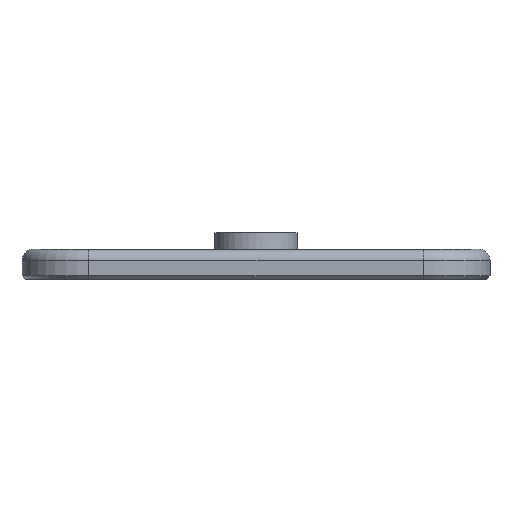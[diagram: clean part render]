
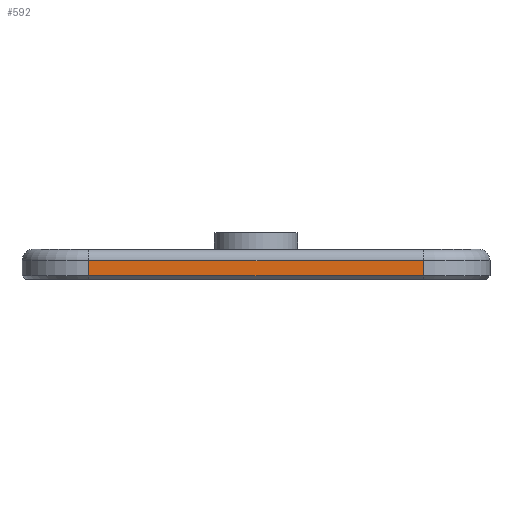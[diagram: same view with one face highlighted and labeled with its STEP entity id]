
A CAD part, front view. The second image highlights one B-rep face of the part: STEP entity #592.
In plain terms, the highlighted planar face has unit normal (0, -1, 0).
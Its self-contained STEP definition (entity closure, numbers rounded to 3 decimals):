
#62 = CYLINDRICAL_SURFACE('',#63,4.);
#63 = AXIS2_PLACEMENT_3D('',#64,#65,#66);
#64 = CARTESIAN_POINT('',(-10.,-32.,0.));
#65 = DIRECTION('',(-0.,-0.,-1.));
#66 = DIRECTION('',(1.,0.,0.));
#161 = VERTEX_POINT('',#162);
#162 = CARTESIAN_POINT('',(-10.,-36.,1.1));
#189 = EDGE_CURVE('',#190,#161,#192,.T.);
#190 = VERTEX_POINT('',#191);
#191 = CARTESIAN_POINT('',(-10.,-36.,0.2));
#192 = SURFACE_CURVE('',#193,(#197,#204),.PCURVE_S1.);
#193 = LINE('',#194,#195);
#194 = CARTESIAN_POINT('',(-10.,-36.,0.));
#195 = VECTOR('',#196,1.);
#196 = DIRECTION('',(0.,0.,1.));
#197 = PCURVE('',#62,#198);
#198 = DEFINITIONAL_REPRESENTATION('',(#199),#203);
#199 = LINE('',#200,#201);
#200 = CARTESIAN_POINT('',(-4.712,0.));
#201 = VECTOR('',#202,1.);
#202 = DIRECTION('',(-0.,-1.));
#203 = ( GEOMETRIC_REPRESENTATION_CONTEXT(2) 
PARAMETRIC_REPRESENTATION_CONTEXT() REPRESENTATION_CONTEXT('2D SPACE',''
  ) );
#204 = PCURVE('',#205,#210);
#205 = PLANE('',#206);
#206 = AXIS2_PLACEMENT_3D('',#207,#208,#209);
#207 = CARTESIAN_POINT('',(-10.,-36.,0.));
#208 = DIRECTION('',(0.,1.,0.));
#209 = DIRECTION('',(1.,0.,0.));
#210 = DEFINITIONAL_REPRESENTATION('',(#211),#215);
#211 = LINE('',#212,#213);
#212 = CARTESIAN_POINT('',(0.,0.));
#213 = VECTOR('',#214,1.);
#214 = DIRECTION('',(0.,-1.));
#215 = ( GEOMETRIC_REPRESENTATION_CONTEXT(2) 
PARAMETRIC_REPRESENTATION_CONTEXT() REPRESENTATION_CONTEXT('2D SPACE',''
  ) );
#496 = PLANE('',#497);
#497 = AXIS2_PLACEMENT_3D('',#498,#499,#500);
#498 = CARTESIAN_POINT('',(10.,-35.9,0.1));
#499 = DIRECTION('',(0.,-0.707,-0.707)
  );
#500 = DIRECTION('',(-1.,0.,0.));
#554 = CYLINDRICAL_SURFACE('',#555,0.7);
#555 = AXIS2_PLACEMENT_3D('',#556,#557,#558);
#556 = CARTESIAN_POINT('',(10.,-35.3,1.1));
#557 = DIRECTION('',(-1.,-0.,-0.));
#558 = DIRECTION('',(0.,-1.,0.));
#592 = ADVANCED_FACE('',(#593),#205,.F.);
#593 = FACE_BOUND('',#594,.F.);
#594 = EDGE_LOOP('',(#595,#596,#619,#647));
#595 = ORIENTED_EDGE('',*,*,#189,.T.);
#596 = ORIENTED_EDGE('',*,*,#597,.F.);
#597 = EDGE_CURVE('',#598,#161,#600,.T.);
#598 = VERTEX_POINT('',#599);
#599 = CARTESIAN_POINT('',(10.,-36.,1.1));
#600 = SURFACE_CURVE('',#601,(#605,#612),.PCURVE_S1.);
#601 = LINE('',#602,#603);
#602 = CARTESIAN_POINT('',(10.,-36.,1.1));
#603 = VECTOR('',#604,1.);
#604 = DIRECTION('',(-1.,-0.,-0.));
#605 = PCURVE('',#205,#606);
#606 = DEFINITIONAL_REPRESENTATION('',(#607),#611);
#607 = LINE('',#608,#609);
#608 = CARTESIAN_POINT('',(20.,-1.1));
#609 = VECTOR('',#610,1.);
#610 = DIRECTION('',(-1.,0.));
#611 = ( GEOMETRIC_REPRESENTATION_CONTEXT(2) 
PARAMETRIC_REPRESENTATION_CONTEXT() REPRESENTATION_CONTEXT('2D SPACE',''
  ) );
#612 = PCURVE('',#554,#613);
#613 = DEFINITIONAL_REPRESENTATION('',(#614),#618);
#614 = LINE('',#615,#616);
#615 = CARTESIAN_POINT('',(0.,0.));
#616 = VECTOR('',#617,1.);
#617 = DIRECTION('',(0.,1.));
#618 = ( GEOMETRIC_REPRESENTATION_CONTEXT(2) 
PARAMETRIC_REPRESENTATION_CONTEXT() REPRESENTATION_CONTEXT('2D SPACE',''
  ) );
#619 = ORIENTED_EDGE('',*,*,#620,.F.);
#620 = EDGE_CURVE('',#621,#598,#623,.T.);
#621 = VERTEX_POINT('',#622);
#622 = CARTESIAN_POINT('',(10.,-36.,0.2));
#623 = SURFACE_CURVE('',#624,(#628,#635),.PCURVE_S1.);
#624 = LINE('',#625,#626);
#625 = CARTESIAN_POINT('',(10.,-36.,0.));
#626 = VECTOR('',#627,1.);
#627 = DIRECTION('',(0.,0.,1.));
#628 = PCURVE('',#205,#629);
#629 = DEFINITIONAL_REPRESENTATION('',(#630),#634);
#630 = LINE('',#631,#632);
#631 = CARTESIAN_POINT('',(20.,0.));
#632 = VECTOR('',#633,1.);
#633 = DIRECTION('',(0.,-1.));
#634 = ( GEOMETRIC_REPRESENTATION_CONTEXT(2) 
PARAMETRIC_REPRESENTATION_CONTEXT() REPRESENTATION_CONTEXT('2D SPACE',''
  ) );
#635 = PCURVE('',#636,#641);
#636 = CYLINDRICAL_SURFACE('',#637,4.);
#637 = AXIS2_PLACEMENT_3D('',#638,#639,#640);
#638 = CARTESIAN_POINT('',(10.,-32.,0.));
#639 = DIRECTION('',(-0.,-0.,-1.));
#640 = DIRECTION('',(1.,0.,0.));
#641 = DEFINITIONAL_REPRESENTATION('',(#642),#646);
#642 = LINE('',#643,#644);
#643 = CARTESIAN_POINT('',(-4.712,0.));
#644 = VECTOR('',#645,1.);
#645 = DIRECTION('',(-0.,-1.));
#646 = ( GEOMETRIC_REPRESENTATION_CONTEXT(2) 
PARAMETRIC_REPRESENTATION_CONTEXT() REPRESENTATION_CONTEXT('2D SPACE',''
  ) );
#647 = ORIENTED_EDGE('',*,*,#648,.T.);
#648 = EDGE_CURVE('',#621,#190,#649,.T.);
#649 = SURFACE_CURVE('',#650,(#654,#661),.PCURVE_S1.);
#650 = LINE('',#651,#652);
#651 = CARTESIAN_POINT('',(10.,-36.,0.2));
#652 = VECTOR('',#653,1.);
#653 = DIRECTION('',(-1.,-0.,-0.));
#654 = PCURVE('',#205,#655);
#655 = DEFINITIONAL_REPRESENTATION('',(#656),#660);
#656 = LINE('',#657,#658);
#657 = CARTESIAN_POINT('',(20.,-0.2));
#658 = VECTOR('',#659,1.);
#659 = DIRECTION('',(-1.,0.));
#660 = ( GEOMETRIC_REPRESENTATION_CONTEXT(2) 
PARAMETRIC_REPRESENTATION_CONTEXT() REPRESENTATION_CONTEXT('2D SPACE',''
  ) );
#661 = PCURVE('',#496,#662);
#662 = DEFINITIONAL_REPRESENTATION('',(#663),#667);
#663 = LINE('',#664,#665);
#664 = CARTESIAN_POINT('',(0.,-0.141));
#665 = VECTOR('',#666,1.);
#666 = DIRECTION('',(1.,0.));
#667 = ( GEOMETRIC_REPRESENTATION_CONTEXT(2) 
PARAMETRIC_REPRESENTATION_CONTEXT() REPRESENTATION_CONTEXT('2D SPACE',''
  ) );
